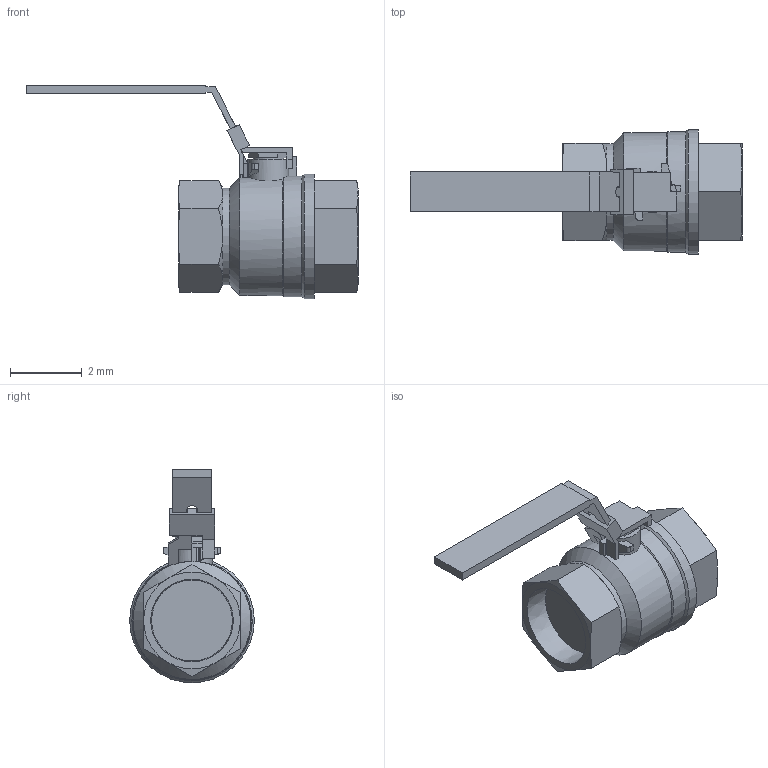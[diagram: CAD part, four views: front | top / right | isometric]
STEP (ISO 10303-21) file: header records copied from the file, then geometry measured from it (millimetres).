
FILE_DESCRIPTION(('Open CASCADE Model'),'2;1');
FILE_NAME('Open CASCADE Shape Model','2022-07-26T13:53:14',('Author'),( 'Open CASCADE'),'Open CASCADE STEP processor 7.3','Open CASCADE 7.3' ,'Unknown');
FILE_SCHEMA(('AUTOMOTIVE_DESIGN { 1 0 10303 214 1 1 1 1 }'));
Length unit declared in the file: millimetre
Products named in the file (3): Open CASCADE STEP translator 7.3 1; Open CASCADE STEP translator 7.3 1.1; Open CASCADE STEP translator 7.3 1.2
Assembly tree (2 placements, depth 2):
  Open CASCADE STEP translator 7.3 1
    Open CASCADE STEP translator 7.3 1.1
    Open CASCADE STEP translator 7.3 1.2
Bounding box: 9.23 x 3.46 x 5.94 mm (x, y, z)
Volume: 33.6 mm3; surface area: 104.6 mm2
Topology: 2 solids, 3 shells, 133 faces, 350 edges, 227 vertices
Faces by surface type: plane 93, cone 23, cylinder 17
Full cylindrical faces by diameter (mm): 0.66 x1, 0.864 x1, 2.694 x1, 3.344 x1, 3.464 x1
Entity records: 10730 total; most frequent: CARTESIAN_POINT 3986, DIRECTION 1184, LINE 762, VECTOR 762, ORIENTED_EDGE 700, PCURVE 700, DEFINITIONAL_REPRESENTATION 700, EDGE_CURVE 350
